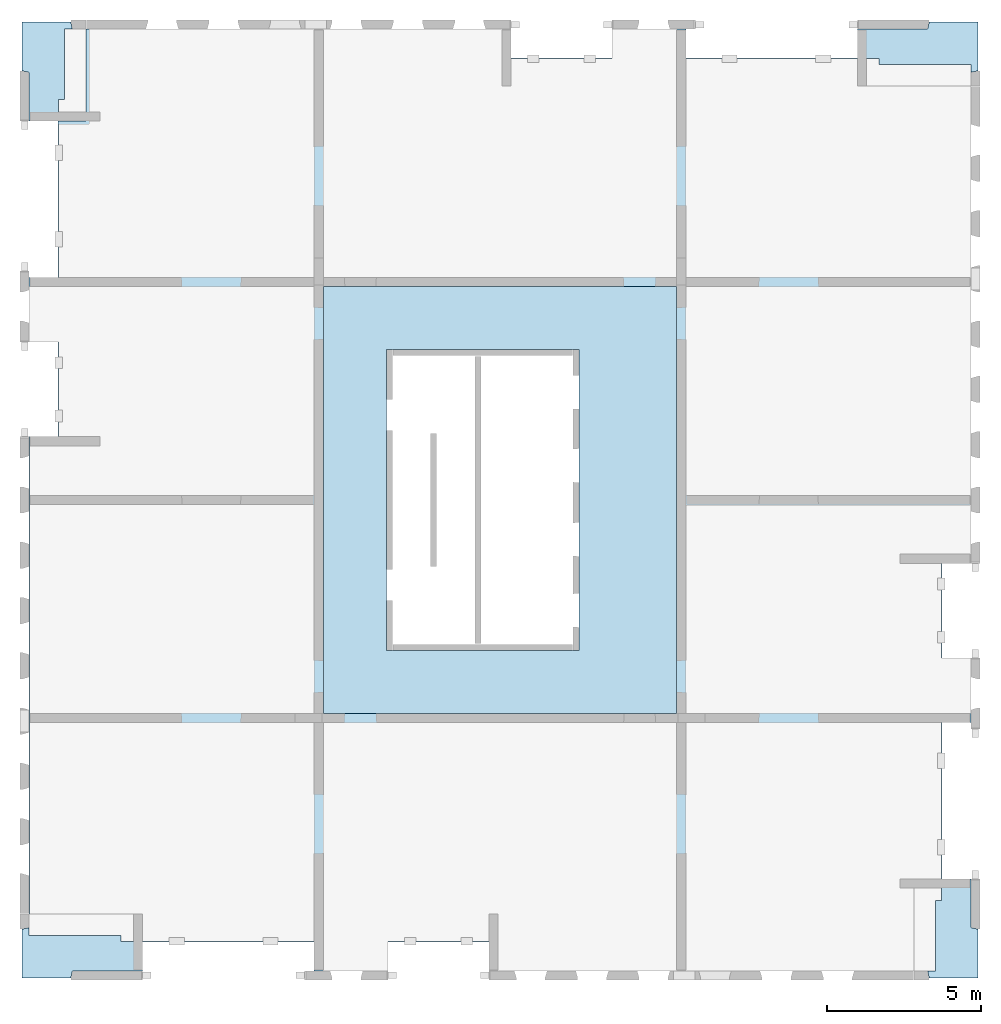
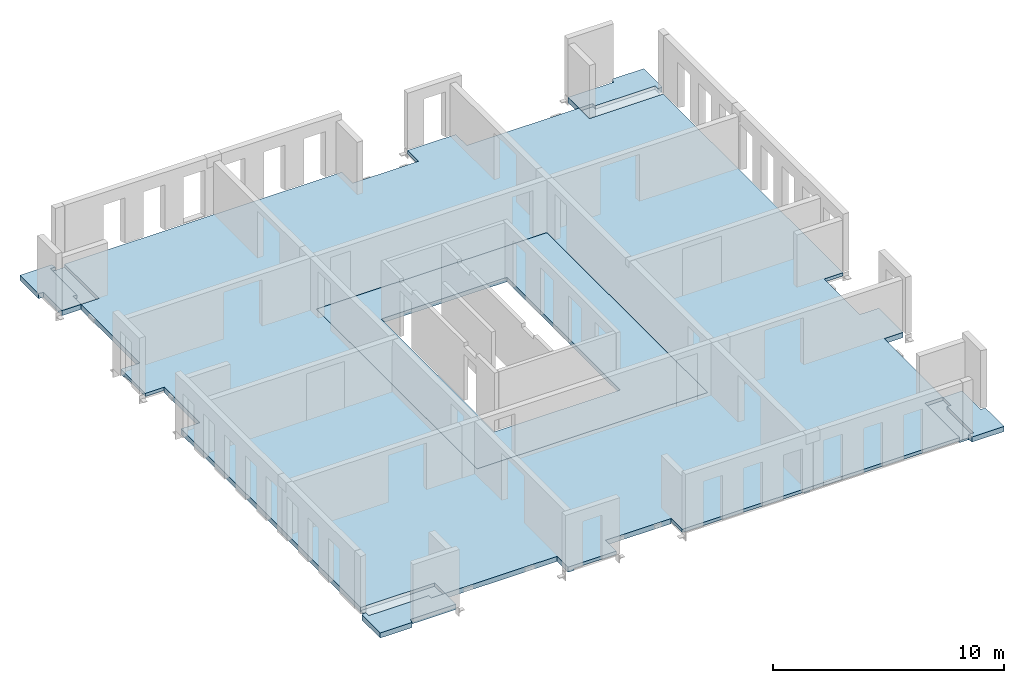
# One storey, part 5 of 5: 6 slabs.
"""IFC2X3 building model written with IfcOpenShell, lengths in millimetres."""

from ifc_helpers import new_model, entity, si_unit, converted_unit, derived_unit, direction, frame, origin, place, context, subcontext, project, spatial, faceted_brep, element, save


model = new_model("IFC2X3")

# Units and contexts
model_context = context("Model", 3, precision=0.01, world=origin(), true_north=direction((6.12303176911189e-17, 1.0)))
body_context = subcontext(model_context, "Body", "Model", "MODEL_VIEW")
ifc_project = project(units=[si_unit("LENGTHUNIT", "METRE", prefix="MILLI"), si_unit("AREAUNIT", "SQUARE_METRE"), si_unit("VOLUMEUNIT", "CUBIC_METRE"), converted_unit("PLANEANGLEUNIT", "DEGREE", entity("IfcRatioMeasure", 0.0174532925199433), si_unit("PLANEANGLEUNIT", "RADIAN"), dimensions=[0, 0, 0, 0, 0, 0, 0]), si_unit("MASSUNIT", "GRAM", prefix="KILO"), derived_unit("MASSDENSITYUNIT", [(si_unit("MASSUNIT", "GRAM", prefix="KILO"), 1), (si_unit("LENGTHUNIT", "METRE"), -3)]), si_unit("TIMEUNIT", "SECOND"), si_unit("FREQUENCYUNIT", "HERTZ"), si_unit("THERMODYNAMICTEMPERATUREUNIT", "DEGREE_CELSIUS"), derived_unit("THERMALTRANSMITTANCEUNIT", [(si_unit("MASSUNIT", "GRAM", prefix="KILO"), 1), (si_unit("THERMODYNAMICTEMPERATUREUNIT", "KELVIN"), -1), (si_unit("TIMEUNIT", "SECOND"), -3)]), derived_unit("VOLUMETRICFLOWRATEUNIT", [(si_unit("LENGTHUNIT", "METRE"), 3), (si_unit("TIMEUNIT", "SECOND"), -1)]), si_unit("ELECTRICCURRENTUNIT", "AMPERE"), si_unit("ELECTRICVOLTAGEUNIT", "VOLT"), si_unit("POWERUNIT", "WATT"), si_unit("FORCEUNIT", "NEWTON", prefix="KILO"), si_unit("ILLUMINANCEUNIT", "LUX"), si_unit("LUMINOUSFLUXUNIT", "LUMEN"), si_unit("LUMINOUSINTENSITYUNIT", "CANDELA"), derived_unit("USERDEFINED", [(si_unit("MASSUNIT", "GRAM", prefix="KILO"), -1), (si_unit("LENGTHUNIT", "METRE"), -2), (si_unit("TIMEUNIT", "SECOND"), 3), (si_unit("LUMINOUSFLUXUNIT", "LUMEN"), 1)]), derived_unit("LINEARVELOCITYUNIT", [(si_unit("LENGTHUNIT", "METRE"), 1), (si_unit("TIMEUNIT", "SECOND"), -1)]), si_unit("PRESSUREUNIT", "PASCAL"), derived_unit("USERDEFINED", [(si_unit("LENGTHUNIT", "METRE"), -2), (si_unit("MASSUNIT", "GRAM", prefix="KILO"), 1), (si_unit("TIMEUNIT", "SECOND"), -2)])], contexts=[model_context])

# Site, building, storey
site_placement = place(None, origin())
site = spatial("IfcSite", under=ifc_project, at=site_placement, Name="Default", CompositionType="ELEMENT")
building_placement = place(site_placement, origin())
building = spatial("IfcBuilding", under=site, at=building_placement, Name="niet gebruiken", CompositionType="ELEMENT")
storey_placement = place(building_placement, frame((0.0, 0.0, 158760.0)))
storey = spatial("IfcBuildingStorey", under=building, at=storey_placement, Name="51 eenenvijftigste verdieping", CompositionType="ELEMENT", Elevation=158760.0)

# Slabs
slab_1_placement = place(storey_placement, origin())
element("IfcSlab", 1, at=slab_1_placement, inside=storey, Name="Floor:NLRS_23.22_FL_beton prefab d=270 3D element_gen", ObjectType="Floor:NLRS_23.22_FL_beton prefab d=270 3D element_gen", PredefinedType="LANDING", context=body_context, shape_type="Brep", body=[
    faceted_brep([(126420.0, 29840.0, -360.0), (126420.0, 31425.3761755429, -360.0), (126187.0, 31472.8526645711, -360.0), (126187.0, 33063.0, -360.0), (127777.147335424, 33063.0, -360.0), (127824.623824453, 32830.0, -360.0), (128270.0, 32830.0, -360.0), (128270.0, 29840.0, -360.0), (126420.0, 31425.3761755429, -90.0), (126420.0, 29840.0, -90.0), (127370.0, 29840.0, -90.0), (127370.0, 30540.0, -90.0), (127570.0, 30540.0, -90.0), (127570.0, 32830.0, -90.0), (127824.623824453, 32830.0, -90.0), (127777.147335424, 33063.0, -90.0), (126187.0, 33063.0, -90.0), (126187.0, 31472.8526645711, -90.0), (127824.623824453, 32830.0, -260.0), (128270.0, 32830.0, -260.0), (128270.0, 29840.0, -260.0), (127370.0, 29840.0, -260.0), (127370.0, 30540.0, -260.0), (127570.0, 32830.0, -260.0), (127570.0, 30540.0, -260.0)], [[[0, 1, 2, 3, 4, 5, 6, 7]], [[8, 9, 10, 11, 12, 13, 14, 15, 16, 17]], [[1, 0, 9, 8]], [[2, 1, 8, 17]], [[3, 2, 17, 16]], [[4, 3, 16, 15]], [[5, 4, 15, 14, 18]], [[6, 5, 18, 19]], [[7, 6, 19, 20]], [[0, 7, 20, 21, 10, 9]], [[22, 21, 20, 19, 18, 23, 24]], [[13, 23, 18, 14]], [[21, 22, 11, 10]], [[22, 24, 12, 11]], [[24, 23, 13, 12]]]),
])
slab_2_placement = place(storey_placement, origin())
element("IfcSlab", 2, at=slab_2_placement, inside=storey, Name="Floor:NLRS_23.22_FL_beton prefab d=270 3D element_gen", ObjectType="Floor:NLRS_23.22_FL_beton prefab d=270 3D element_gen", PredefinedType="LANDING", context=body_context, shape_type="Brep", body=[
    faceted_brep([(157080.0, 5160.0, -360.0), (157080.0, 3574.62382445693, -360.0), (157313.0, 3527.1473354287, -360.0), (157313.0, 1937.0, -360.0), (155722.852664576, 1937.0, -360.0), (155675.376175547, 2170.0, -360.0), (155230.0, 2170.0, -360.0), (155230.0, 5160.0, -360.0), (157080.0, 3574.62382445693, -90.0), (157080.0, 5160.0, -90.0), (156130.0, 5160.0, -90.0), (156130.0, 4460.0, -90.0), (155930.0, 4460.0, -90.0), (155930.0, 2170.0, -90.0), (155675.376175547, 2170.0, -90.0), (155722.852664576, 1937.0, -90.0), (157313.0, 1937.0, -90.0), (157313.0, 3527.1473354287, -90.0), (155675.376175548, 2170.0, -260.0), (155230.0, 2170.0, -260.0), (155230.0, 5160.0, -260.0), (156130.0, 5160.0, -260.0), (156130.0, 4460.0, -260.0), (155930.0, 2170.0, -260.0), (155930.0, 4460.0, -260.0)], [[[0, 1, 2, 3, 4, 5, 6, 7]], [[8, 9, 10, 11, 12, 13, 14, 15, 16, 17]], [[1, 0, 9, 8]], [[2, 1, 8, 17]], [[3, 2, 17, 16]], [[4, 3, 16, 15]], [[5, 4, 15, 14, 18]], [[6, 5, 18, 19]], [[7, 6, 19, 20]], [[0, 7, 20, 21, 10, 9]], [[22, 21, 20, 19, 18, 23, 24]], [[13, 23, 18, 14]], [[21, 22, 11, 10]], [[22, 24, 12, 11]], [[24, 23, 13, 12]]]),
])
slab_3_placement = place(storey_placement, origin())
element("IfcSlab", 3, at=slab_3_placement, inside=storey, Name="Floor:NLRS_23.22_FL_beton prefab d=270 3D element_gen", ObjectType="Floor:NLRS_23.22_FL_beton prefab d=270 3D element_gen", PredefinedType="LANDING", context=body_context, shape_type="Brep", body=[
    faceted_brep([(126420.0, 4020.0, -360.0), (130110.0, 4020.0, -360.0), (130110.0, 2170.0, -360.0), (127824.62382445, 2170.0, -360.0), (127777.147335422, 1937.0, -360.0), (126187.0, 1937.0, -360.0), (126187.0, 3527.14733543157, -360.0), (126420.0, 3574.62382445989, -360.0), (127824.62382445, 2170.0, -90.0), (130110.0, 2170.0, -90.0), (130110.0, 3120.0, -90.0), (129410.0, 3120.0, -90.0), (129410.0, 3320.0, -90.0), (126420.0, 3320.0, -90.0), (126420.0, 3574.62382445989, -90.0), (126187.0, 3527.14733543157, -90.0), (126187.0, 1937.0, -90.0), (127777.147335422, 1937.0, -90.0), (126420.0, 4020.0, -260.0), (130110.0, 4020.0, -260.0), (130110.0, 3120.0, -260.0), (126420.0, 3574.62382446, -260.0), (129410.0, 3120.0, -260.0), (126420.0, 3320.0, -260.0), (129410.0, 3320.0, -260.0)], [[[0, 1, 2, 3, 4, 5, 6, 7]], [[8, 9, 10, 11, 12, 13, 14, 15, 16, 17]], [[1, 0, 18, 19]], [[2, 1, 19, 20, 10, 9]], [[3, 2, 9, 8]], [[4, 3, 8, 17]], [[5, 4, 17, 16]], [[6, 5, 16, 15]], [[7, 6, 15, 14, 21]], [[0, 7, 21, 18]], [[22, 20, 19, 18, 21, 23, 24]], [[20, 22, 11, 10]], [[22, 24, 12, 11]], [[24, 23, 13, 12]], [[13, 23, 21, 14]]]),
])
slab_4_placement = place(storey_placement, origin())
element("IfcSlab", 4, at=slab_4_placement, inside=storey, Name="Floor:NLRS_23.22_FL_beton prefab d=270 3D element_gen", ObjectType="Floor:NLRS_23.22_FL_beton prefab d=270 3D element_gen", PredefinedType="LANDING", context=body_context, shape_type="Brep", body=[
    faceted_brep([(157080.0, 30980.0, -360.0), (153390.0, 30980.0, -360.0), (153390.0, 32830.0, -360.0), (155675.376175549, 32830.0, -360.0), (155722.852664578, 33063.0, -360.0), (157313.0, 33063.0, -360.0), (157313.0, 31472.8526645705, -360.0), (157080.0, 31425.3761755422, -360.0), (155675.376175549, 32830.0, -90.0), (153390.0, 32830.0, -90.0), (153390.0, 31880.0, -90.0), (154090.0, 31880.0, -90.0), (154090.0, 31680.0, -90.0), (157080.0, 31680.0, -90.0), (157080.0, 31425.3761755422, -90.0), (157313.0, 31472.8526645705, -90.0), (157313.0, 33063.0, -90.0), (155722.852664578, 33063.0, -90.0), (157080.0, 30980.0, -260.0), (153390.0, 30980.0, -260.0), (153390.0, 31880.0, -260.0), (157080.0, 31425.3761755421, -260.0), (154090.0, 31880.0, -260.0), (157080.0, 31680.0, -260.0), (154090.0, 31680.0, -260.0)], [[[0, 1, 2, 3, 4, 5, 6, 7]], [[8, 9, 10, 11, 12, 13, 14, 15, 16, 17]], [[1, 0, 18, 19]], [[2, 1, 19, 20, 10, 9]], [[3, 2, 9, 8]], [[4, 3, 8, 17]], [[5, 4, 17, 16]], [[6, 5, 16, 15]], [[7, 6, 15, 14, 21]], [[0, 7, 21, 18]], [[22, 20, 19, 18, 21, 23, 24]], [[20, 22, 11, 10]], [[22, 24, 12, 11]], [[24, 23, 13, 12]], [[13, 23, 21, 14]]]),
])
slab_5_placement = place(storey_placement, origin())
element("IfcSlab", 5, at=slab_5_placement, inside=storey, Name="Floor:NLRS_23.21_FL_vloer d=270_gen", ObjectType="Floor:NLRS_23.21_FL_vloer d=270_gen", PredefinedType="FLOOR", context=body_context, shape_type="Brep", body=[
    faceted_brep([(156135.0, 15440.0, -360.0), (156135.0, 12360.0, -360.0), (156130.0, 12360.0, -360.0), (156130.0, 15440.0, -360.0), (142110.0, 31885.0, -90.0), (142110.0, 32830.0, -90.0), (128270.0, 32830.0, -90.0), (128270.0, 29840.0, -90.0), (127370.0, 29840.0, -90.0), (127365.0, 29840.0, -90.0), (127365.0, 24750.0, -90.0), (126420.0, 24750.0, -90.0), (126420.0, 22640.0, -90.0), (127365.0, 22640.0, -90.0), (127365.0, 19560.0, -90.0), (126420.0, 19560.0, -90.0), (126420.0, 4020.0, -90.0), (130110.0, 4020.0, -90.0), (130110.0, 3120.0, -90.0), (130110.0, 3115.0, -90.0), (135700.0, 3115.0, -90.0), (135700.0, 2170.0, -90.0), (138110.0, 2170.0, -90.0), (138110.0, 3115.0, -90.0), (141390.0, 3115.0, -90.0), (141390.0, 2170.0, -90.0), (155230.0, 2170.0, -90.0), (155230.0, 5160.0, -90.0), (156130.0, 5160.0, -90.0), (156135.0, 5160.0, -90.0), (156135.0, 10250.0, -90.0), (157080.0, 10250.0, -90.0), (157080.0, 12360.0, -90.0), (156135.0, 12360.0, -90.0), (156135.0, 15440.0, -90.0), (157080.0, 15440.0, -90.0), (157080.0, 30980.0, -90.0), (153390.0, 30980.0, -90.0), (153390.0, 31880.0, -90.0), (153390.0, 31885.0, -90.0), (147800.0, 31885.0, -90.0), (147800.0, 32830.0, -90.0), (145390.0, 32830.0, -90.0), (145390.0, 31885.0, -90.0), (136000.0, 24450.0, -90.0), (147500.0, 24450.0, -90.0), (147500.0, 10549.7638872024, -90.0), (136000.0, 10549.7638872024, -90.0), (136000.0, 24450.0, -360.0), (147500.0, 24450.0, -360.0), (147500.0, 24450.0, -320.0), (136000.0, 24450.0, -320.0), (136000.0, 10550.0, -360.0), (136000.0, 10550.0, -320.0), (147500.0, 10550.0, -360.0), (147500.0, 10550.0, -320.0), (142110.0, 31885.0, -260.0), (142110.0, 32830.0, -260.0), (145390.0, 31885.0, -360.0), (142110.0, 31885.0, -360.0), (145390.0, 31885.0, -260.0), (145390.0, 32830.0, -260.0), (147800.0, 32830.0, -360.0), (147510.0, 32830.0, -360.0), (147510.0, 32830.0, -260.0), (147800.0, 31885.0, -360.0), (153390.0, 31885.0, -360.0), (153390.0, 30980.0, -260.0), (153390.0, 31880.0, -260.0), (153390.0, 31880.0, -360.0), (157080.0, 30980.0, -260.0), (157080.0, 15440.0, -260.0), (156135.0, 15440.0, -260.0), (156135.0, 12360.0, -260.0), (157080.0, 12360.0, -260.0), (157080.0, 10250.0, -360.0), (157080.0, 10540.0, -360.0), (157080.0, 10540.0, -260.0), (156135.0, 10250.0, -360.0), (156135.0, 5160.0, -360.0), (155230.0, 5160.0, -260.0), (156130.0, 5160.0, -260.0), (156130.0, 5160.0, -360.0), (155230.0, 2170.0, -260.0), (141390.0, 2170.0, -260.0), (141390.0, 3115.0, -260.0), (138110.0, 3115.0, -360.0), (141390.0, 3115.0, -360.0), (138110.0, 3115.0, -260.0), (138110.0, 2170.0, -260.0), (135700.0, 2170.0, -360.0), (135990.0, 2170.0, -360.0), (135990.0, 2170.0, -260.0), (135700.0, 3115.0, -360.0), (130110.0, 3115.0, -360.0), (130110.0, 4020.0, -260.0), (130110.0, 3120.0, -260.0), (130110.0, 3120.0, -360.0), (126420.0, 4020.0, -260.0), (126420.0, 4020.0, -360.0), (126430.0, 4020.0, -360.0), (126430.0, 4020.0, -260.0), (126420.0, 19560.0, -360.0), (127365.0, 19560.0, -260.0), (126430.0, 19560.0, -260.0), (126430.0, 19560.0, -360.0), (127365.0, 22640.0, -360.0), (127365.0, 19560.0, -360.0), (127365.0, 22640.0, -260.0), (126420.0, 22640.0, -260.0), (126420.0, 24750.0, -360.0), (126420.0, 24460.0, -360.0), (126420.0, 24460.0, -260.0), (127365.0, 24750.0, -360.0), (127365.0, 29840.0, -360.0), (128270.0, 29840.0, -360.0), (128270.0, 29840.0, -260.0), (128270.0, 32830.0, -360.0), (128270.0, 32830.0, -260.0), (128370.0, 32830.0, -260.0), (128370.0, 32830.0, -360.0), (147510.0, 10540.0, -320.0), (147510.0, 24460.0, -320.0), (135990.0, 24460.0, -320.0), (135990.0, 10540.0, -320.0), (135990.0, 24460.0, -260.0), (147510.0, 24460.0, -260.0), (147510.0, 10540.0, -260.0), (135990.0, 10540.0, -260.0), (147500.0, 24450.0, -260.0), (136000.0, 24450.0, -260.0), (136000.0, 10549.7638872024, -260.0), (147500.0, 10549.7638872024, -260.0), (147790.0, 31880.0, -260.0), (156130.0, 15440.0, -260.0), (156130.0, 12360.0, -260.0), (147790.0, 10540.0, -260.0), (147790.0, 17340.0, -260.0), (157050.0, 17340.0, -260.0), (157050.0, 17640.0, -260.0), (147790.0, 17640.0, -260.0), (147790.0, 24460.0, -260.0), (157050.0, 24460.0, -260.0), (157050.0, 24740.0, -260.0), (147790.0, 24740.0, -260.0), (127370.0, 29740.0, -260.0), (127370.0, 24740.0, -260.0), (127370.0, 24740.0, -360.0), (127370.0, 29740.0, -360.0), (142110.0, 31880.0, -360.0), (142110.0, 31880.0, -260.0), (147790.0, 31880.0, -360.0), (156130.0, 10260.0, -260.0), (156130.0, 10260.0, -360.0), (141390.0, 3120.0, -360.0), (141390.0, 3120.0, -260.0), (135710.0, 3120.0, -260.0), (135710.0, 3120.0, -360.0), (127370.0, 19560.0, -360.0), (127370.0, 19560.0, -260.0), (135710.0, 10260.0, -260.0), (135710.0, 10260.0, -360.0), (147510.0, 10260.0, -260.0), (135990.0, 10260.0, -260.0), (135990.0, 10260.0, -360.0), (147510.0, 10260.0, -360.0), (147790.0, 24740.0, -360.0), (135990.0, 24740.0, -260.0), (147510.0, 24740.0, -260.0), (147510.0, 24740.0, -360.0), (135990.0, 24740.0, -360.0), (128370.0, 29740.0, -260.0), (128370.0, 29740.0, -360.0), (147510.0, 2200.0, -260.0), (147510.0, 2200.0, -360.0), (147790.0, 2200.0, -260.0), (147790.0, 2200.0, -360.0), (147790.0, 10260.0, -260.0), (147790.0, 10260.0, -360.0), (147790.0, 10540.0, -360.0), (147790.0, 17340.0, -360.0), (157050.0, 17340.0, -360.0), (157050.0, 17640.0, -360.0), (147790.0, 17640.0, -360.0), (147790.0, 24460.0, -360.0), (157050.0, 24460.0, -360.0), (157050.0, 24740.0, -360.0), (135990.0, 32800.0, -260.0), (135990.0, 32800.0, -360.0), (135710.0, 32800.0, -260.0), (135710.0, 32800.0, -360.0), (135710.0, 24740.0, -260.0), (135710.0, 24740.0, -360.0), (135710.0, 24460.0, -260.0), (135710.0, 24460.0, -360.0), (135710.0, 17640.0, -260.0), (135710.0, 17640.0, -360.0), (126450.0, 17640.0, -260.0), (126450.0, 17640.0, -360.0), (126450.0, 17360.0, -260.0), (126450.0, 17360.0, -360.0), (135710.0, 17360.0, -260.0), (135710.0, 17360.0, -360.0), (135710.0, 10540.0, -260.0), (135710.0, 10540.0, -360.0), (126450.0, 10540.0, -260.0), (126450.0, 10540.0, -360.0), (126450.0, 10260.0, -260.0), (126450.0, 10260.0, -360.0), (127370.0, 22640.0, -260.0), (127370.0, 22640.0, -360.0), (145390.0, 31880.0, -260.0), (145390.0, 31880.0, -360.0), (138110.0, 3120.0, -260.0), (138110.0, 3120.0, -360.0)], [[[0, 1, 2, 3]], [[4, 5, 6, 7, 8, 9, 10, 11, 12, 13, 14, 15, 16, 17, 18, 19, 20, 21, 22, 23, 24, 25, 26, 27, 28, 29, 30, 31, 32, 33, 34, 35, 36, 37, 38, 39, 40, 41, 42, 43], [44, 45, 46, 47]], [[48, 49, 50, 51]], [[52, 48, 51, 53]], [[54, 52, 53, 55]], [[49, 54, 55, 50]], [[5, 4, 56, 57]], [[58, 59, 56, 4, 43, 60]], [[43, 42, 61, 60]], [[42, 41, 62, 63, 64, 61]], [[65, 62, 41, 40]], [[66, 65, 40, 39]], [[66, 39, 38, 37, 67, 68, 69]], [[37, 36, 70, 67]], [[36, 35, 71, 70]], [[35, 34, 72, 71]], [[1, 0, 72, 34, 33, 73]], [[33, 32, 74, 73]], [[32, 31, 75, 76, 77, 74]], [[78, 75, 31, 30]], [[79, 78, 30, 29]], [[79, 29, 28, 27, 80, 81, 82]], [[27, 26, 83, 80]], [[26, 25, 84, 83]], [[25, 24, 85, 84]], [[86, 87, 85, 24, 23, 88]], [[23, 22, 89, 88]], [[22, 21, 90, 91, 92, 89]], [[93, 90, 21, 20]], [[94, 93, 20, 19]], [[19, 18, 17, 95, 96, 97, 94]], [[17, 16, 98, 99, 100, 101, 95]], [[102, 99, 98, 16, 15]], [[15, 14, 103, 104, 105, 102]], [[106, 107, 103, 14, 13, 108]], [[13, 12, 109, 108]], [[12, 11, 110, 111, 112, 109]], [[113, 110, 11, 10]], [[114, 113, 10, 9]], [[115, 114, 9, 8, 7, 116]], [[117, 115, 116, 7, 6, 118]], [[6, 5, 57, 119, 120, 117, 118]], [[51, 50, 55, 53], [121, 122, 123, 124]], [[125, 126, 127, 128], [129, 130, 131, 132]], [[122, 121, 127, 126]], [[121, 124, 128, 127]], [[124, 123, 125, 128]], [[123, 122, 126, 125]], [[46, 132, 131, 47]], [[133, 68, 67, 70, 71, 72, 134, 135, 73, 74, 77, 136, 137, 138, 139, 140, 141, 142, 143, 144]], [[145, 146, 147, 148]], [[149, 150, 56, 59]], [[68, 133, 151, 69]], [[3, 134, 72, 0]], [[81, 152, 153, 82]], [[154, 155, 85, 87]], [[96, 156, 157, 97]], [[104, 101, 100, 105]], [[158, 159, 103, 107]], [[156, 160, 161, 157]], [[162, 163, 164, 165]], [[133, 144, 166, 151]], [[167, 168, 169, 170]], [[171, 145, 148, 172]], [[119, 171, 172, 120]], [[163, 92, 91, 164]], [[173, 162, 165, 174]], [[175, 173, 174, 176]], [[177, 175, 176, 178]], [[152, 177, 178, 153]], [[136, 77, 76, 179]], [[137, 136, 179, 180]], [[138, 137, 180, 181]], [[139, 138, 181, 182]], [[140, 139, 182, 183]], [[141, 140, 183, 184]], [[142, 141, 184, 185]], [[143, 142, 185, 186]], [[144, 143, 186, 166]], [[168, 64, 63, 169]], [[187, 167, 170, 188]], [[189, 187, 188, 190]], [[191, 189, 190, 192]], [[146, 191, 192, 147]], [[193, 112, 111, 194]], [[195, 193, 194, 196]], [[197, 195, 196, 198]], [[199, 197, 198, 200]], [[201, 199, 200, 202]], [[203, 201, 202, 204]], [[205, 203, 204, 206]], [[207, 205, 206, 208]], [[160, 207, 208, 161]], [[135, 134, 3, 2]], [[209, 159, 158, 210]], [[211, 150, 149, 212]], [[213, 155, 154, 214]], [[211, 212, 58, 60]], [[209, 210, 106, 108]], [[213, 214, 86, 88]], [[135, 2, 1, 73]], [[191, 146, 145, 171, 119, 57, 56, 150, 211, 60, 61, 64, 168, 167, 187, 189]], [[152, 81, 80, 83, 84, 85, 155, 213, 88, 89, 92, 163, 162, 173, 175, 177]], [[101, 104, 103, 159, 209, 108, 109, 112, 193, 195, 197, 199, 201, 203, 205, 207, 160, 156, 96, 95]], [[45, 129, 132, 46]], [[130, 44, 47, 131]], [[45, 44, 130, 129]], [[62, 65, 66, 69, 151, 166, 186, 185, 184, 183, 182, 181, 180, 179, 76, 75, 78, 79, 82, 153, 178, 176, 174, 165, 164, 91, 90, 93, 94, 97, 157, 161, 208, 206, 204, 202, 200, 198, 196, 194, 111, 110, 113, 114, 115, 117, 120, 172, 148, 147, 192, 190, 188, 170, 169, 63], [49, 48, 52, 54]], [[59, 58, 212, 149]], [[87, 86, 214, 154]], [[107, 106, 210, 158]], [[99, 102, 105, 100]]], outer=[[True], [True, False], [True], [True], [True], [True], [True], [True], [True], [True], [True], [True], [True], [True], [True], [True], [True], [True], [True], [True], [True], [True], [True], [True], [True], [True], [True], [True], [True], [True], [True], [True], [True], [True], [True], [True], [True], [True], [True], [True], [True], [True], [False, True], [True, False], [True], [True], [True], [True], [True], [True], [True], [True], [True], [True], [True], [True], [True], [True], [True], [True], [True], [True], [True], [True], [True], [True], [True], [True], [True], [True], [True], [True], [True], [True], [True], [True], [True], [True], [True], [True], [True], [True], [True], [True], [True], [True], [True], [True], [True], [True], [True], [True], [True], [True], [True], [True], [True], [True], [True], [True], [True], [True], [True], [True], [True], [True], [True], [True, False], [True], [True], [True], [True]]),
])
slab_6_placement = place(storey_placement, origin())
element("IfcSlab", 6, at=slab_6_placement, inside=storey, Name="Floor:NLRS_23.21_FL_vloer=230_gen", ObjectType="Floor:NLRS_23.21_FL_vloer=230_gen", PredefinedType="FLOOR", context=body_context, shape_type="Brep", body=[
    faceted_brep([(144330.0, 22400.0, -320.0), (138050.0, 22400.0, -320.0), (138050.0, 12600.0, -320.0), (144330.0, 12600.0, -320.0), (138040.0, 22410.0, -320.0), (144340.0, 22410.0, -320.0), (144340.0, 12590.0, -320.0), (138040.0, 12590.0, -320.0), (138050.0, 22400.0, -90.0), (144330.0, 22400.0, -90.0), (144330.0, 12600.0, -90.0), (138050.0, 12600.0, -90.0), (147500.0, 10549.7638872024, -90.0), (147500.0, 24450.0, -90.0), (136000.0, 24450.0, -90.0), (136000.0, 10549.7638872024, -90.0), (147500.0, 10549.7638872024, -260.0), (147500.0, 24450.0, -260.0), (136000.0, 10549.7638872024, -260.0), (136000.0, 24450.0, -260.0), (144340.0, 12590.0, -260.0), (144340.0, 22410.0, -260.0), (138040.0, 22410.0, -260.0), (138040.0, 12590.0, -260.0)], [[[0, 1, 2, 3], [4, 5, 6, 7]], [[8, 9, 10, 11], [12, 13, 14, 15]], [[13, 12, 16, 17]], [[12, 15, 18, 16]], [[15, 14, 19, 18]], [[14, 13, 17, 19]], [[1, 0, 9, 8]], [[2, 1, 8, 11]], [[3, 2, 11, 10]], [[0, 3, 10, 9]], [[20, 21, 22, 23], [17, 16, 18, 19]], [[22, 21, 5, 4]], [[23, 22, 4, 7]], [[20, 23, 7, 6]], [[21, 20, 6, 5]]], outer=[[False, True], [False, True], [True], [True], [True], [True], [True], [True], [True], [True], [False, True], [True], [True], [True], [True]]),
])

save(model, "model.ifc")
